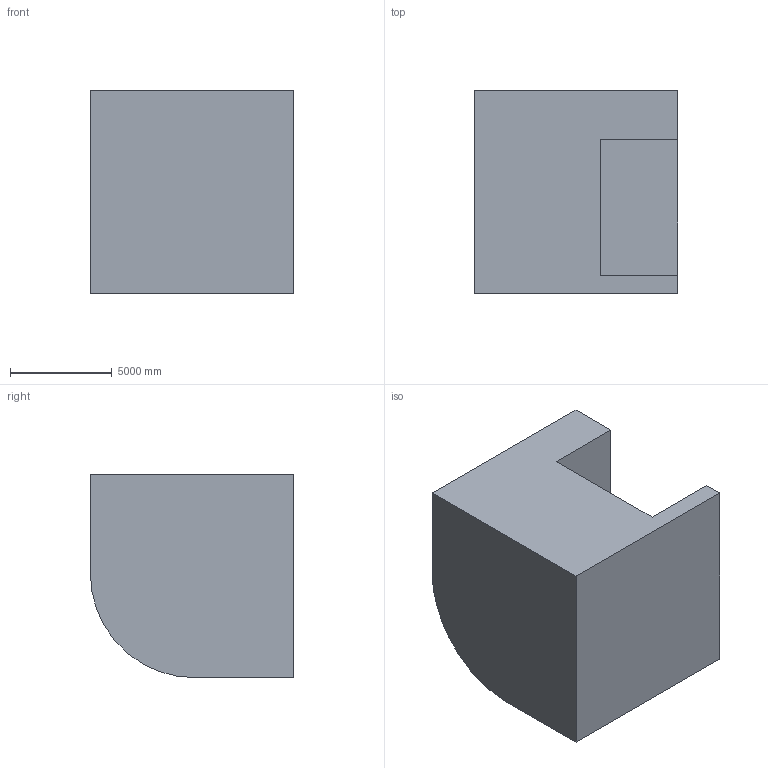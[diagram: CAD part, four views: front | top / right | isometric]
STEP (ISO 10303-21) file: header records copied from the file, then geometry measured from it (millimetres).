
FILE_DESCRIPTION (( 'STEP AP203' ), '1' );
FILE_NAME ('92.STEP', '2022-08-04T14:17:29', ( 'user' ), ( '' ), 'SwSTEP 2.0', 'SolidWorks 2021', '' );
FILE_SCHEMA (( 'CONFIG_CONTROL_DESIGN' ));
Length unit declared in the file: centimetre
Products named in the file (1): 92
Bounding box: 10000 x 10000 x 10000 mm (x, y, z)
Volume: 764347870054 mm3; surface area: 620543363 mm2
Topology: 1 solids, 1 shells, 11 faces, 27 edges, 18 vertices
Faces by surface type: plane 10, cylinder 1
Entity records: 400 total; most frequent: CARTESIAN_POINT 57, ORIENTED_EDGE 54, DIRECTION 53, EDGE_CURVE 27, VECTOR 25, LINE 25, VERTEX_POINT 18, AXIS2_PLACEMENT_3D 14
